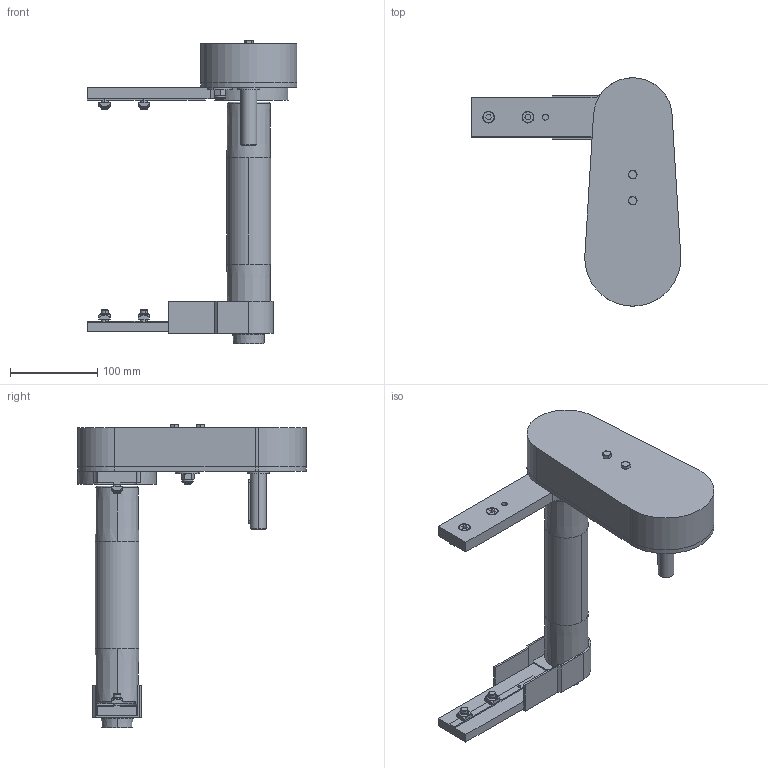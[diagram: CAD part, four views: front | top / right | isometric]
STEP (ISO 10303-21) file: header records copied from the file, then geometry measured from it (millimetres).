
FILE_DESCRIPTION (( 'STEP AP203' ), '1' );
FILE_NAME ('084.050.KTB.44.225.STEP', '2016-10-17T09:23:52', ( '' ), ( '' ), 'SwSTEP 2.0', 'SolidWorks 2016', '' );
FILE_SCHEMA (( 'CONFIG_CONTROL_DESIGN' ));
Length unit declared in the file: millimetre
Products named in the file (1): 084.050.KTB.44.225
Bounding box: 240 x 261.5 x 348 mm (x, y, z)
Surface area: 265243.9 mm2 (no closed solid volume)
Topology: 0 solids, 41 shells, 414 faces, 1468 edges, 1081 vertices
Faces by surface type: plane 187, cylinder 112, cone 55, torus 40, bspline 18, sphere 2
Entity records: 17338 total; most frequent: CARTESIAN_POINT 4927, DIRECTION 2553, ORIENTED_EDGE 2282, EDGE_CURVE 1463, VERTEX_POINT 1078, AXIS2_PLACEMENT_3D 877, VECTOR 799, LINE 799
